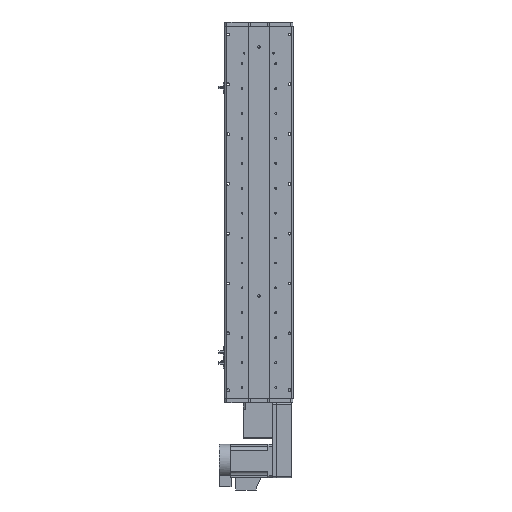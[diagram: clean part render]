
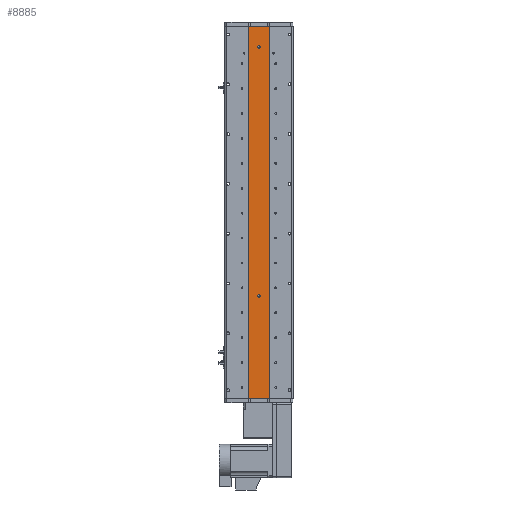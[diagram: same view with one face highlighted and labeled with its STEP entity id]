
A CAD part, front view. The second image highlights one B-rep face of the part: STEP entity #8885.
In plain terms, the highlighted planar face has unit normal (0, -1, 0).
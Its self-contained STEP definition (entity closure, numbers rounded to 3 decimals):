
#24 = EDGE_CURVE ( 'NONE', #7596, #38605, #59599, .T. ) ;
#202 = ORIENTED_EDGE ( 'NONE', *, *, #58927, .F. ) ;
#628 = CIRCLE ( 'NONE', #30200, 3. ) ;
#860 = VECTOR ( 'NONE', #23478, 1000. ) ;
#1750 = LINE ( 'NONE', #26281, #38966 ) ;
#3290 = AXIS2_PLACEMENT_3D ( 'NONE', #39757, #15552, #49552 ) ;
#4003 = VERTEX_POINT ( 'NONE', #30156 ) ;
#6077 = CARTESIAN_POINT ( 'NONE',  ( 0., 1., 395.5 ) ) ;
#6897 = VERTEX_POINT ( 'NONE', #19074 ) ;
#7330 = VECTOR ( 'NONE', #48079, 1000. ) ;
#7504 = ORIENTED_EDGE ( 'NONE', *, *, #59998, .T. ) ;
#7596 = VERTEX_POINT ( 'NONE', #6077 ) ;
#8002 = CARTESIAN_POINT ( 'NONE',  ( 0., 1., 398.5 ) ) ;
#8747 = EDGE_CURVE ( 'NONE', #49742, #16124, #59081, .T. ) ;
#8885 = ADVANCED_FACE ( 'NONE', ( #9592, #23974, #48340 ), #10688, .F. ) ;
#9592 = FACE_BOUND ( 'NONE', #18640, .T. ) ;
#10688 = PLANE ( 'NONE',  #3290 ) ;
#10767 = EDGE_CURVE ( 'NONE', #45385, #4003, #26675, .T. ) ;
#11653 = DIRECTION ( 'NONE',  ( 0., 0., -1. ) ) ;
#11839 = EDGE_LOOP ( 'NONE', ( #55989, #202 ) ) ;
#12864 = DIRECTION ( 'NONE',  ( 0., 0., -1. ) ) ;
#14968 = VERTEX_POINT ( 'NONE', #35708 ) ;
#15552 = DIRECTION ( 'NONE',  ( 0., 1., 0. ) ) ;
#16124 = VERTEX_POINT ( 'NONE', #55369 ) ;
#16459 = LINE ( 'NONE', #21410, #53763 ) ;
#18203 = AXIS2_PLACEMENT_3D ( 'NONE', #8002, #41946, #12864 ) ;
#18640 = EDGE_LOOP ( 'NONE', ( #40312, #58311 ) ) ;
#18951 = CARTESIAN_POINT ( 'NONE',  ( 25., 1., -448.5 ) ) ;
#19074 = CARTESIAN_POINT ( 'NONE',  ( 0., 1., -198.5 ) ) ;
#21410 = CARTESIAN_POINT ( 'NONE',  ( -25., 1., 448.5 ) ) ;
#22434 = CARTESIAN_POINT ( 'NONE',  ( 0., 1., -201.5 ) ) ;
#23478 = DIRECTION ( 'NONE',  ( 1., 0., 0. ) ) ;
#23945 = ORIENTED_EDGE ( 'NONE', *, *, #10767, .F. ) ;
#23974 = FACE_BOUND ( 'NONE', #11839, .T. ) ;
#25465 = DIRECTION ( 'NONE',  ( 0., -1., 0. ) ) ;
#26281 = CARTESIAN_POINT ( 'NONE',  ( 25., 1., 448.5 ) ) ;
#26446 = EDGE_CURVE ( 'NONE', #4003, #16124, #1750, .T. ) ;
#26663 = CARTESIAN_POINT ( 'NONE',  ( 0., 1., -201.5 ) ) ;
#26675 = LINE ( 'NONE', #42640, #860 ) ;
#27351 = DIRECTION ( 'NONE',  ( 0., 0., -1. ) ) ;
#27590 = CARTESIAN_POINT ( 'NONE',  ( -25., 1., -448.5 ) ) ;
#30156 = CARTESIAN_POINT ( 'NONE',  ( 25., 1., 448.5 ) ) ;
#30200 = AXIS2_PLACEMENT_3D ( 'NONE', #26663, #60745, #31575 ) ;
#31575 = DIRECTION ( 'NONE',  ( 0., 0., -1. ) ) ;
#35708 = CARTESIAN_POINT ( 'NONE',  ( 0., 1., -204.5 ) ) ;
#38447 = EDGE_CURVE ( 'NONE', #14968, #6897, #61417, .T. ) ;
#38605 = VERTEX_POINT ( 'NONE', #57567 ) ;
#38966 = VECTOR ( 'NONE', #11653, 1000. ) ;
#39757 = CARTESIAN_POINT ( 'NONE',  ( 25., 1., 448.5 ) ) ;
#39765 = CARTESIAN_POINT ( 'NONE',  ( -25., 1., 448.5 ) ) ;
#40312 = ORIENTED_EDGE ( 'NONE', *, *, #24, .F. ) ;
#41946 = DIRECTION ( 'NONE',  ( 0., -1., 0. ) ) ;
#42471 = AXIS2_PLACEMENT_3D ( 'NONE', #22434, #56507, #27351 ) ;
#42640 = CARTESIAN_POINT ( 'NONE',  ( 25., 1., 448.5 ) ) ;
#42645 = EDGE_LOOP ( 'NONE', ( #57470, #62385, #23945, #7504 ) ) ;
#45385 = VERTEX_POINT ( 'NONE', #39765 ) ;
#48079 = DIRECTION ( 'NONE',  ( 1., 0., 0. ) ) ;
#48340 = FACE_OUTER_BOUND ( 'NONE', #42645, .T. ) ;
#49476 = EDGE_CURVE ( 'NONE', #38605, #7596, #52554, .T. ) ;
#49552 = DIRECTION ( 'NONE',  ( 0., 0., 1. ) ) ;
#49742 = VERTEX_POINT ( 'NONE', #27590 ) ;
#50564 = DIRECTION ( 'NONE',  ( 0., 0., -1. ) ) ;
#50741 = AXIS2_PLACEMENT_3D ( 'NONE', #54603, #25465, #59546 ) ;
#52554 = CIRCLE ( 'NONE', #50741, 3. ) ;
#53763 = VECTOR ( 'NONE', #50564, 1000. ) ;
#54603 = CARTESIAN_POINT ( 'NONE',  ( 0., 1., 398.5 ) ) ;
#55369 = CARTESIAN_POINT ( 'NONE',  ( 25., 1., -448.5 ) ) ;
#55989 = ORIENTED_EDGE ( 'NONE', *, *, #38447, .F. ) ;
#56507 = DIRECTION ( 'NONE',  ( 0., -1., 0. ) ) ;
#57470 = ORIENTED_EDGE ( 'NONE', *, *, #8747, .T. ) ;
#57567 = CARTESIAN_POINT ( 'NONE',  ( 0., 1., 401.5 ) ) ;
#58311 = ORIENTED_EDGE ( 'NONE', *, *, #49476, .F. ) ;
#58927 = EDGE_CURVE ( 'NONE', #6897, #14968, #628, .T. ) ;
#59081 = LINE ( 'NONE', #18951, #7330 ) ;
#59546 = DIRECTION ( 'NONE',  ( 0., 0., -1. ) ) ;
#59599 = CIRCLE ( 'NONE', #18203, 3. ) ;
#59998 = EDGE_CURVE ( 'NONE', #45385, #49742, #16459, .T. ) ;
#60745 = DIRECTION ( 'NONE',  ( 0., -1., 0. ) ) ;
#61417 = CIRCLE ( 'NONE', #42471, 3. ) ;
#62385 = ORIENTED_EDGE ( 'NONE', *, *, #26446, .F. ) ;
